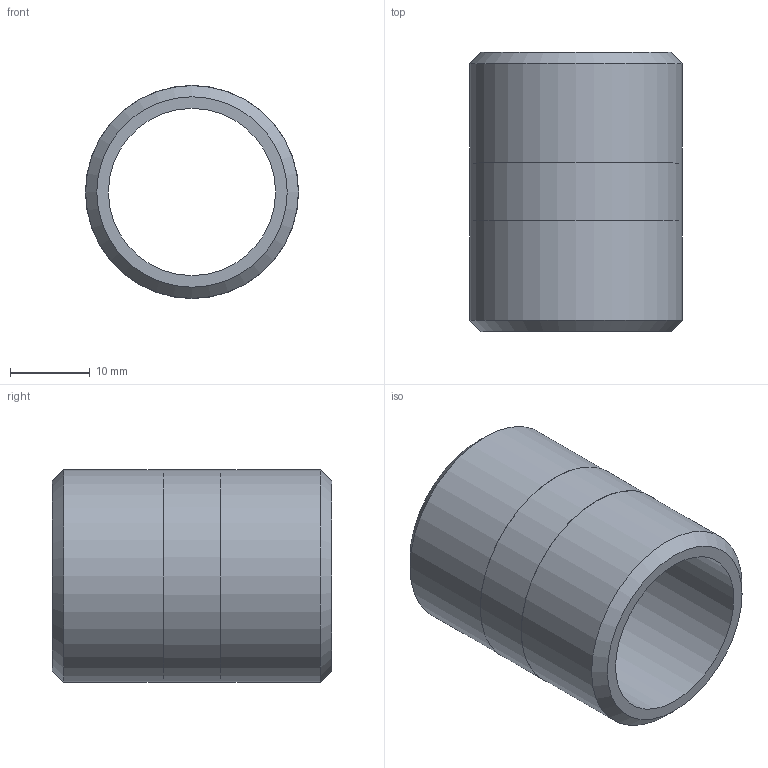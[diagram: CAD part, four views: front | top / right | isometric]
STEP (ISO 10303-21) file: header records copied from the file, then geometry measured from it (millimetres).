
FILE_DESCRIPTION(/* description */ (''),/* implementation_level */ '2;1');
FILE_NAME(/* name */ 'C:/Users/drich/Desktop/SSPN34-CLOSE v1.step',/* time_stamp */ '2020-01-04T13:44:39-06:00',/* author */ (''),/* organization */ (''),/* preprocessor_version */ 'ST-DEVELOPER v18',/* originating_system */ 'Autodesk Translation Framework v8.12.0.6',/* authorisation */ '');
FILE_SCHEMA (('AUTOMOTIVE_DESIGN { 1 0 10303 214 3 1 1 }'));
Length unit declared in the file: inch
Products named in the file (1): SSPN34-CLOSE
Bounding box: 26.67 x 34.92 x 26.67 mm (x, y, z)
Volume: 7278.6 mm3; surface area: 5505.5 mm2
Topology: 1 solids, 1 shells, 10 faces, 24 edges, 18 vertices
Faces by surface type: cylinder 4, plane 4, cone 2
Full cylindrical faces by diameter (mm): 20.93 x1, 26.619 x2, 26.67 x1
Entity records: 353 total; most frequent: DIRECTION 64, CARTESIAN_POINT 53, ORIENTED_EDGE 48, AXIS2_PLACEMENT_3D 29, EDGE_CURVE 24, CIRCLE 18, VERTEX_POINT 18, EDGE_LOOP 14
